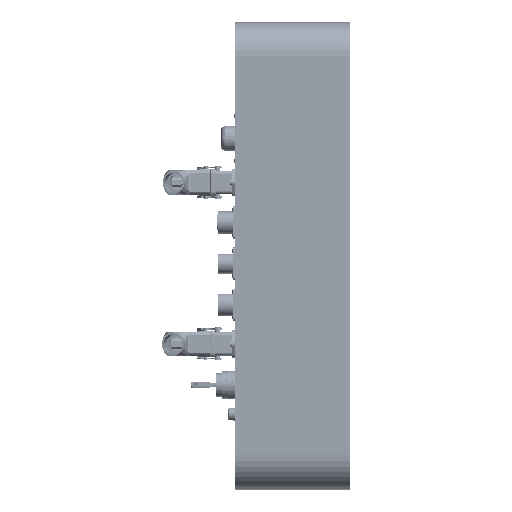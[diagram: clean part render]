
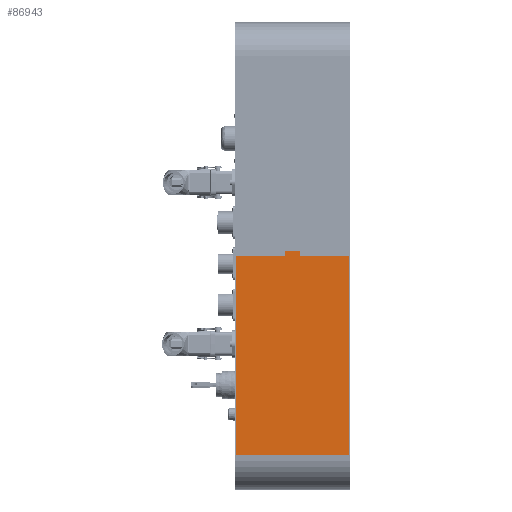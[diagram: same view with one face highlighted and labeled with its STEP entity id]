
A CAD part, top view. The second image highlights one B-rep face of the part: STEP entity #86943.
In plain terms, the highlighted planar face has unit normal (0, 0, 1) by its records, which use the part's own axes.
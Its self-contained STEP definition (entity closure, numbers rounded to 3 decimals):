
#13558 = CARTESIAN_POINT ( 'NONE',  ( -59., -35., -189.75 ) ) ;
#23206 = ORIENTED_EDGE ( 'NONE', *, *, #177338, .T. ) ;
#23686 = ORIENTED_EDGE ( 'NONE', *, *, #151547, .T. ) ;
#24938 = CARTESIAN_POINT ( 'NONE',  ( -59., -238.75, -189.75 ) ) ;
#50152 = EDGE_CURVE ( 'NONE', #186434, #186341, #229063, .T. ) ;
#50949 = DIRECTION ( 'NONE',  ( -1., 0., 0. ) ) ;
#51578 = FACE_OUTER_BOUND ( 'NONE', #175088, .T. ) ;
#60201 = VERTEX_POINT ( 'NONE', #184588 ) ;
#61803 = CARTESIAN_POINT ( 'NONE',  ( -7.5, -243.75, -189.75 ) ) ;
#64944 = LINE ( 'NONE', #155998, #246317 ) ;
#65403 = LINE ( 'NONE', #24938, #71330 ) ;
#65896 = LINE ( 'NONE', #145577, #205474 ) ;
#68970 = LINE ( 'NONE', #81063, #232430 ) ;
#71330 = VECTOR ( 'NONE', #211919, 1000. ) ;
#74624 = CARTESIAN_POINT ( 'NONE',  ( -58., -238.75, -189.75 ) ) ;
#79519 = ORIENTED_EDGE ( 'NONE', *, *, #192192, .T. ) ;
#81063 = CARTESIAN_POINT ( 'NONE',  ( 7.5, -35., -189.75 ) ) ;
#81753 = EDGE_CURVE ( 'NONE', #60201, #183314, #65403, .T. ) ;
#82671 = VERTEX_POINT ( 'NONE', #173994 ) ;
#86943 = ADVANCED_FACE ( 'NONE', ( #51578 ), #222096, .T. ) ;
#89521 = ORIENTED_EDGE ( 'NONE', *, *, #81753, .T. ) ;
#90898 = DIRECTION ( 'NONE',  ( 0., 1., 0. ) ) ;
#101028 = DIRECTION ( 'NONE',  ( 1., 0., 0. ) ) ;
#111518 = DIRECTION ( 'NONE',  ( 1., 0., 0. ) ) ;
#114068 = DIRECTION ( 'NONE',  ( 1., 0., 0. ) ) ;
#115363 = LINE ( 'NONE', #184567, #153889 ) ;
#117566 = DIRECTION ( 'NONE',  ( 0., 1., 0. ) ) ;
#127914 = VECTOR ( 'NONE', #101028, 1000. ) ;
#130767 = CARTESIAN_POINT ( 'NONE',  ( -7.5, -238.75, -189.75 ) ) ;
#132324 = VECTOR ( 'NONE', #50949, 1000. ) ;
#133972 = CARTESIAN_POINT ( 'NONE',  ( -58., -35., -189.75 ) ) ;
#136807 = VERTEX_POINT ( 'NONE', #130767 ) ;
#138239 = LINE ( 'NONE', #158912, #132324 ) ;
#143844 = CARTESIAN_POINT ( 'NONE',  ( -58., -35., -189.75 ) ) ;
#145577 = CARTESIAN_POINT ( 'NONE',  ( 58., -35., -189.75 ) ) ;
#147805 = ORIENTED_EDGE ( 'NONE', *, *, #151727, .T. ) ;
#151547 = EDGE_CURVE ( 'NONE', #186341, #60201, #68970, .T. ) ;
#151727 = EDGE_CURVE ( 'NONE', #183314, #82671, #65896, .T. ) ;
#153889 = VECTOR ( 'NONE', #111518, 1000. ) ;
#155350 = ORIENTED_EDGE ( 'NONE', *, *, #190355, .T. ) ;
#155901 = CARTESIAN_POINT ( 'NONE',  ( 58., -238.75, -189.75 ) ) ;
#155998 = CARTESIAN_POINT ( 'NONE',  ( -7.5, -35., -189.75 ) ) ;
#158912 = CARTESIAN_POINT ( 'NONE',  ( -59., -35., -189.75 ) ) ;
#163793 = DIRECTION ( 'NONE',  ( 0., -1., 0. ) ) ;
#173994 = CARTESIAN_POINT ( 'NONE',  ( 58., -35., -189.75 ) ) ;
#175088 = EDGE_LOOP ( 'NONE', ( #147805, #23206, #220533, #79519, #155350, #224394, #23686, #89521 ) ) ;
#177338 = EDGE_CURVE ( 'NONE', #82671, #230557, #138239, .T. ) ;
#183314 = VERTEX_POINT ( 'NONE', #155901 ) ;
#184567 = CARTESIAN_POINT ( 'NONE',  ( -59., -238.75, -189.75 ) ) ;
#184588 = CARTESIAN_POINT ( 'NONE',  ( 7.5, -238.75, -189.75 ) ) ;
#186341 = VERTEX_POINT ( 'NONE', #190505 ) ;
#186434 = VERTEX_POINT ( 'NONE', #61803 ) ;
#188351 = EDGE_CURVE ( 'NONE', #230557, #234526, #208178, .T. ) ;
#190355 = EDGE_CURVE ( 'NONE', #136807, #186434, #64944, .T. ) ;
#190505 = CARTESIAN_POINT ( 'NONE',  ( 7.5, -243.75, -189.75 ) ) ;
#190975 = DIRECTION ( 'NONE',  ( 0., -1., 0. ) ) ;
#192192 = EDGE_CURVE ( 'NONE', #234526, #136807, #115363, .T. ) ;
#199349 = VECTOR ( 'NONE', #163793, 1000. ) ;
#205474 = VECTOR ( 'NONE', #90898, 1000. ) ;
#208178 = LINE ( 'NONE', #143844, #199349 ) ;
#208739 = DIRECTION ( 'NONE',  ( 0., 0., 1. ) ) ;
#211919 = DIRECTION ( 'NONE',  ( 1., 0., 0. ) ) ;
#213107 = CARTESIAN_POINT ( 'NONE',  ( -59., -243.75, -189.75 ) ) ;
#217660 = AXIS2_PLACEMENT_3D ( 'NONE', #13558, #208739, #114068 ) ;
#220533 = ORIENTED_EDGE ( 'NONE', *, *, #188351, .T. ) ;
#222096 = PLANE ( 'NONE',  #217660 ) ;
#224394 = ORIENTED_EDGE ( 'NONE', *, *, #50152, .T. ) ;
#229063 = LINE ( 'NONE', #213107, #127914 ) ;
#230557 = VERTEX_POINT ( 'NONE', #133972 ) ;
#232430 = VECTOR ( 'NONE', #117566, 1000. ) ;
#234526 = VERTEX_POINT ( 'NONE', #74624 ) ;
#246317 = VECTOR ( 'NONE', #190975, 1000. ) ;
